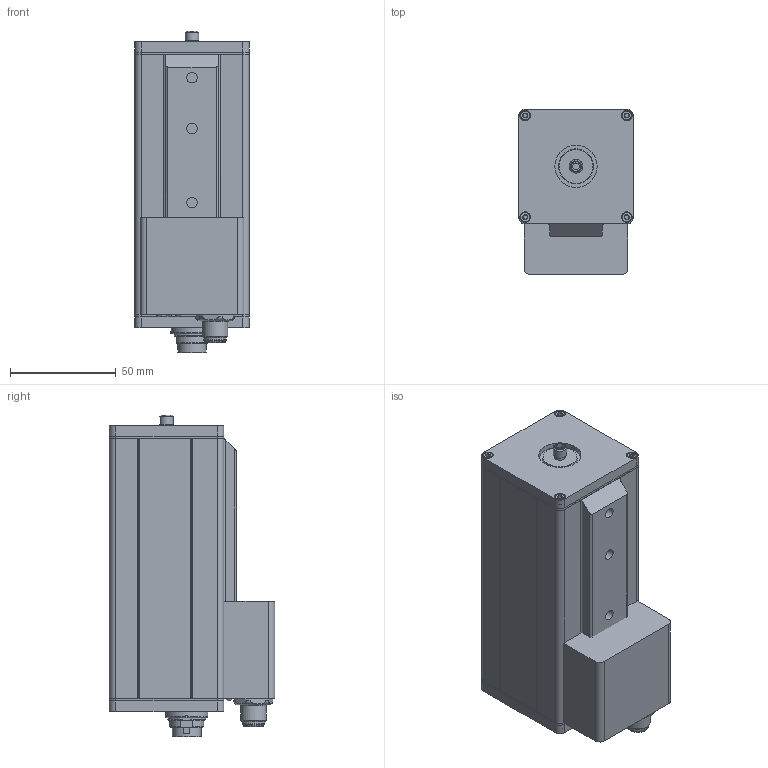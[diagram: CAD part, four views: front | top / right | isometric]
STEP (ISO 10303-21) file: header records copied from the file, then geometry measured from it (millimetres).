
FILE_DESCRIPTION((''),'2;1');
FILE_NAME('C:\Dokumente und Einstellungen\Dr.Maurer\Desktop\Inventor Matthias Kimmerle\KTRD1000\Step Dateien\KTRD1000 Lichtleiter Profinet.stp','2021-06-22T09:41:17',('Dr.Maurer'),(''),'Autodesk Inventor 10','Autodesk Inventor 10','');
FILE_SCHEMA(('AUTOMOTIVE_DESIGN { 1 0 10303 214 1 1 1 1 }'));
Length unit declared in the file: millimetre
Products named in the file (12): Gehäuse Lichtleiter Profinet; Gehaeuse; dichtung; rueckwand; stecker; frontLL; Innenteil Lichtleiter; 91290A102; Profinet; M12 Stecker; 1A_2
Assembly tree (19 placements, depth 4):
  Gehäuse Lichtleiter Profinet
    Gehaeuse
    dichtung  x2
    rueckwand
    stecker
    frontLL
    Innenteil Lichtleiter
    91290A102  x8
    Profinet
      Profinet
      M12 Stecker
        1A_2
Bounding box: 54 x 78 x 152 mm (x, y, z)
Volume: 464205.5 mm3; surface area: 79588.9 mm2
Topology: 17 solids, 18 shells, 1002 faces, 3284 edges, 2394 vertices
Faces by surface type: plane 361, cylinder 347, bspline 130, cone 111, torus 34, sphere 19
Full cylindrical faces by diameter (mm): 0.6 x12, 0.9 x8, 1 x16, 1.05 x12, 1.6 x5, 2.5 x136, 2.9 x3, 3 x3, 3.18 x1, 4.5 x8, 4.7 x1, 5.3 x1, 6.35 x1, 8.35 x1, 9.5 x1, 9.7 x1, 9.85 x1, 10.7 x1, 12 x1, 13.5 x1, 13.6 x1, 14 x2, 15 x1, 16 x1, 16.5 x1, 20 x3
Entity records: 27037 total; most frequent: CARTESIAN_POINT 11416, ORIENTED_EDGE 3064, DIRECTION 2973, EDGE_CURVE 1532, AXIS2_PLACEMENT_3D 1168, VERTEX_POINT 1141, EDGE_LOOP 983, FACE_OUTER_BOUND 677
